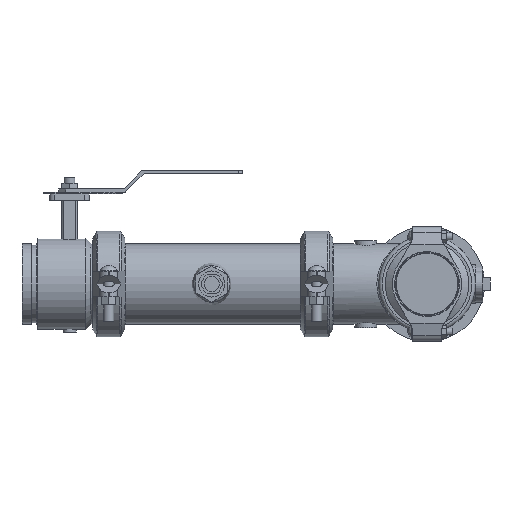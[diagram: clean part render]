
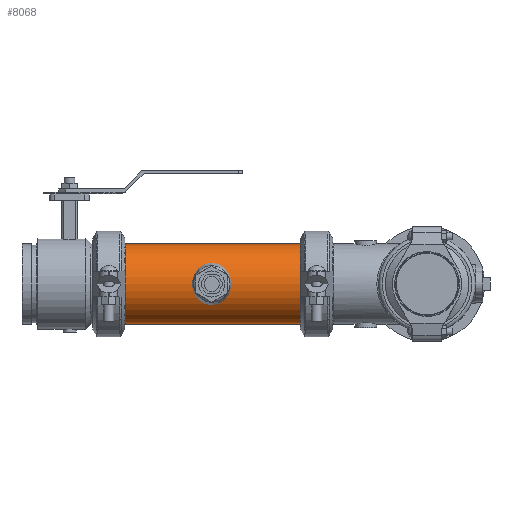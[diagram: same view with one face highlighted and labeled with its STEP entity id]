
A CAD part, left-side view. The second image highlights one B-rep face of the part: STEP entity #8068.
In plain terms, the highlighted cylindrical face has radius 70.65 mm (diameter 141.3 mm), a full revolution.
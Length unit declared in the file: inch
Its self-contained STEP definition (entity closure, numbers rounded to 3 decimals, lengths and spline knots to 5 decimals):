
#689=FACE_OUTER_BOUND('',#1180,.T.);
#1180=EDGE_LOOP('',(#5940,#5941,#5942,#5943,#5944,#5945));
#1720=CIRCLE('',#8904,2.7815);
#1721=CIRCLE('',#8905,2.7815);
#1722=CIRCLE('',#8907,2.7815);
#1723=CIRCLE('',#8908,2.7815);
#2182=LINE('',#13798,#2767);
#2767=VECTOR('',#10458,2.7815);
#3461=VERTEX_POINT('',#13789);
#3462=VERTEX_POINT('',#13790);
#3463=VERTEX_POINT('',#13794);
#3464=VERTEX_POINT('',#13795);
#4360=EDGE_CURVE('',#3461,#3462,#1720,.T.);
#4361=EDGE_CURVE('',#3462,#3461,#1721,.T.);
#4362=EDGE_CURVE('',#3463,#3464,#1722,.T.);
#4363=EDGE_CURVE('',#3464,#3463,#1723,.T.);
#4364=EDGE_CURVE('',#3464,#3462,#2182,.T.);
#5940=ORIENTED_EDGE('',*,*,#4362,.F.);
#5941=ORIENTED_EDGE('',*,*,#4363,.F.);
#5942=ORIENTED_EDGE('',*,*,#4364,.T.);
#5943=ORIENTED_EDGE('',*,*,#4361,.T.);
#5944=ORIENTED_EDGE('',*,*,#4360,.T.);
#5945=ORIENTED_EDGE('',*,*,#4364,.F.);
#7355=CYLINDRICAL_SURFACE('',#8906,2.7815);
#8068=ADVANCED_FACE('',(#689),#7355,.T.);
#8904=AXIS2_PLACEMENT_3D('',#13791,#10448,#10449);
#8905=AXIS2_PLACEMENT_3D('',#13792,#10450,#10451);
#8906=AXIS2_PLACEMENT_3D('',#13793,#10452,#10453);
#8907=AXIS2_PLACEMENT_3D('',#13796,#10454,#10455);
#8908=AXIS2_PLACEMENT_3D('',#13797,#10456,#10457);
#10448=DIRECTION('center_axis',(0.,-1.,0.));
#10449=DIRECTION('ref_axis',(1.,0.,0.));
#10450=DIRECTION('center_axis',(0.,-1.,0.));
#10451=DIRECTION('ref_axis',(1.,0.,0.));
#10452=DIRECTION('center_axis',(0.,-1.,0.));
#10453=DIRECTION('ref_axis',(1.,0.,0.));
#10454=DIRECTION('center_axis',(0.,-1.,0.));
#10455=DIRECTION('ref_axis',(1.,0.,0.));
#10456=DIRECTION('center_axis',(0.,-1.,0.));
#10457=DIRECTION('ref_axis',(1.,0.,0.));
#10458=DIRECTION('',(0.,1.,0.));
#13789=CARTESIAN_POINT('',(2.7815,6.075,0.));
#13790=CARTESIAN_POINT('',(-2.7815,6.075,0.));
#13791=CARTESIAN_POINT('Origin',(0.,6.075,0.));
#13792=CARTESIAN_POINT('Origin',(0.,6.075,0.));
#13793=CARTESIAN_POINT('Origin',(0.,0.,
0.));
#13794=CARTESIAN_POINT('',(2.7815,-6.075,0.));
#13795=CARTESIAN_POINT('',(-2.7815,-6.075,0.));
#13796=CARTESIAN_POINT('Origin',(0.,-6.075,0.));
#13797=CARTESIAN_POINT('Origin',(0.,-6.075,0.));
#13798=CARTESIAN_POINT('',(-2.7815,0.,0.));
